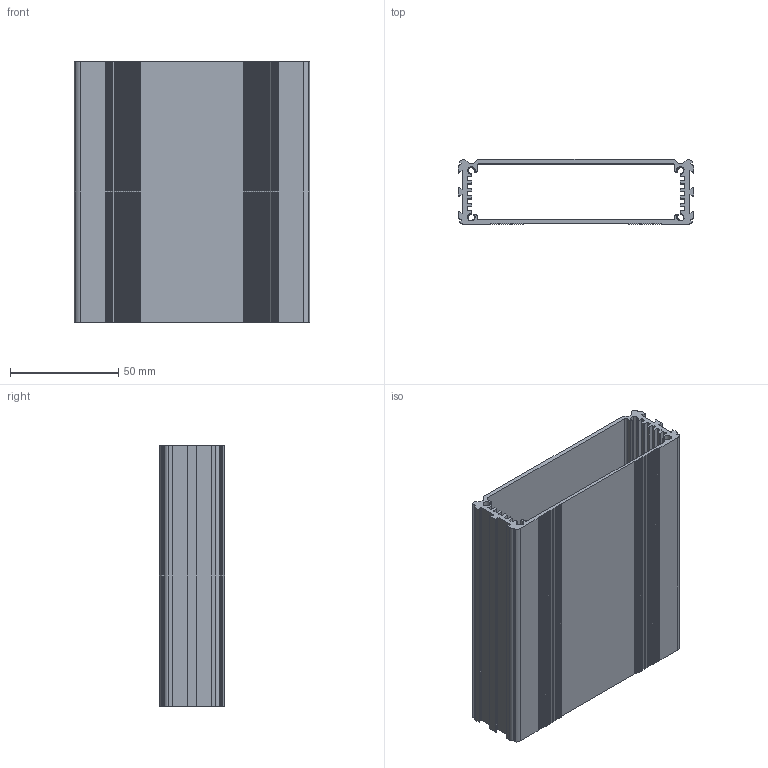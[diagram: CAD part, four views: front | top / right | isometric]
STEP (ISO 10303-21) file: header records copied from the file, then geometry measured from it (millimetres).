
FILE_DESCRIPTION (( 'STEP AP214' ), '1' );
FILE_NAME ('B2-120 Main Body.STEP', '2025-05-14T16:32:22', ( '' ), ( '' ), 'SwSTEP 2.0', 'SolidWorks 2025', '' );
FILE_SCHEMA (( 'AUTOMOTIVE_DESIGN' ));
Length unit declared in the file: millimetre
Products named in the file (1): B2-120 Main Body
Bounding box: 108.52 x 30 x 120 mm (x, y, z)
Volume: 71519.2 mm3; surface area: 76129.4 mm2
Topology: 1 solids, 1 shells, 392 faces, 1152 edges, 762 vertices
Faces by surface type: cylinder 208, plane 160, cone 24
Entity records: 13564 total; most frequent: CARTESIAN_POINT 2856, ORIENTED_EDGE 2304, DIRECTION 2260, EDGE_CURVE 1152, AXIS2_PLACEMENT_3D 781, VERTEX_POINT 762, VECTOR 698, LINE 698
